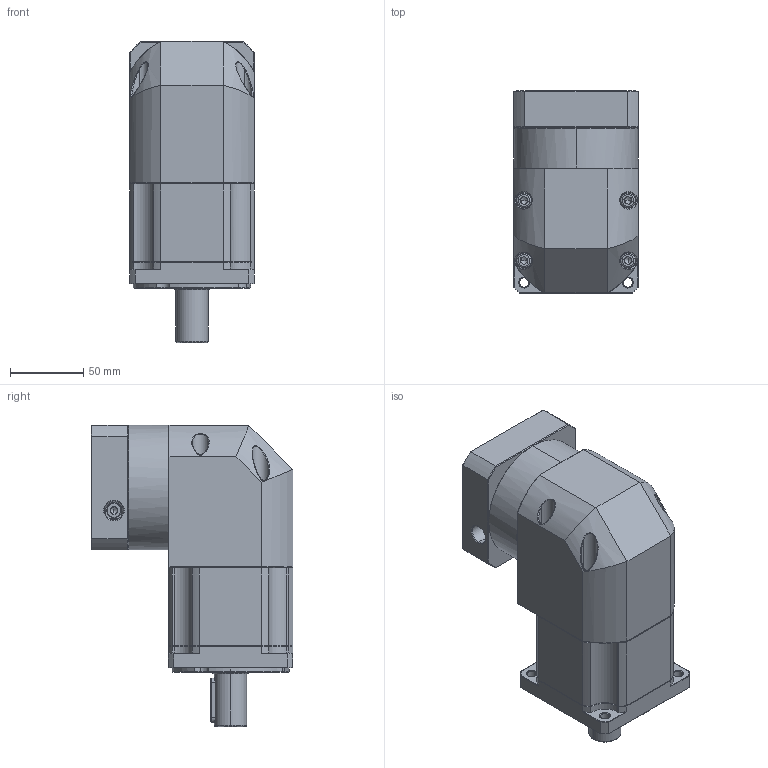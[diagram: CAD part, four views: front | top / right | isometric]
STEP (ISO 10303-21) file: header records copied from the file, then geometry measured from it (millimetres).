
FILE_DESCRIPTION (( 'STEP AP214' ), '1' );
FILE_NAME ('ZBR090-D22-L2-P2-19-70-90-M6.step', '2023-08-19T02:06:56', ( '' ), ( '' ), 'SwSTEP 2.0', 'SolidWorks 2016', '' );
FILE_SCHEMA (( 'AUTOMOTIVE_DESIGN' ));
Length unit declared in the file: millimetre
Products named in the file (1): ZBR090-D22-L2-P2-19-70-90-M6
Bounding box: 85 x 137.6 x 205.5 mm (x, y, z)
Volume: 1310075.7 mm3; surface area: 135763.8 mm2
Topology: 5 solids, 5 shells, 2402 faces, 6273 edges, 3963 vertices
Faces by surface type: plane 1157, cylinder 447, bspline 421, cone 351, torus 26
Entity records: 129534 total; most frequent: CARTESIAN_POINT 47779, ORIENTED_EDGE 12470, DIRECTION 9909, EDGE_CURVE 6235, LINE 3965, VECTOR 3965, VERTEX_POINT 3963, AXIS2_PLACEMENT_3D 2972
